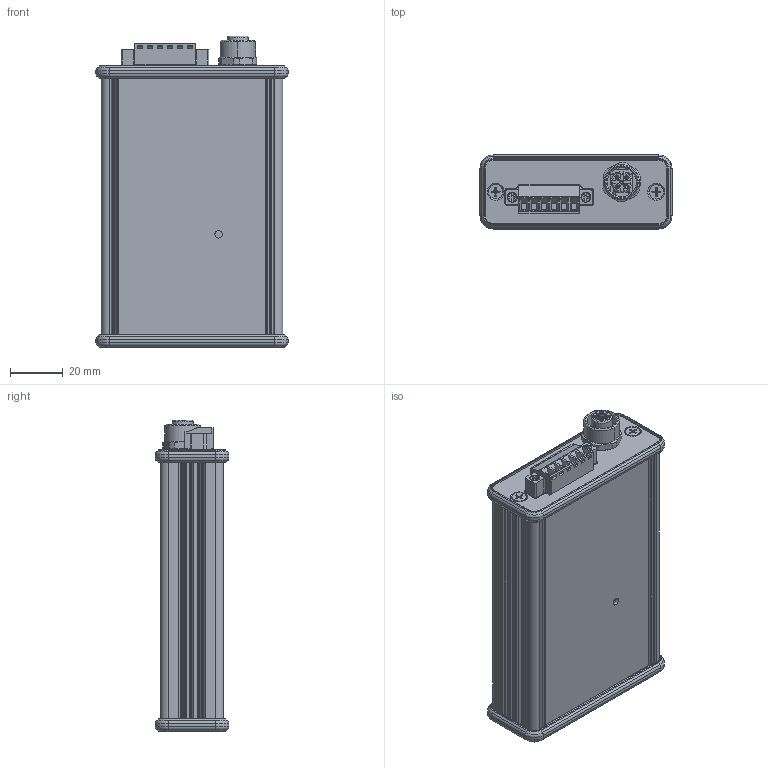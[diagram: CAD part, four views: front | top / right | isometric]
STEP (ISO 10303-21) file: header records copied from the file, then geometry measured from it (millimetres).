
FILE_DESCRIPTION (( 'STEP AP214' ), '1' );
FILE_NAME ('20260410_piCAN-Logger_91700004_Rev01_01.STEP', '2026-04-10T05:21:10', ( '' ), ( '' ), 'SwSTEP 2.0', 'SolidWorks 2026', '' );
FILE_SCHEMA (( 'AUTOMOTIVE_DESIGN' ));
Length unit declared in the file: millimetre
Products named in the file (10): 20260410_piCAN-Logger_91700004_Rev01_01; 001039003; 001032098_LED_Rev01_00; AKG D 69 24 100 Seitenteil USB_Rev00_02; 001032098; AKG D 69 24 100 Seitenteil CAN_Rev01_00; LL 30 PRL 032; WR-TBL-691364300006; DIN EN ISO 7046-1 H M3 x 10 - 4.8 - H; piCAN-Logger_Rev01_01_simpel
Assembly tree (13 placements, depth 2):
  20260410_piCAN-Logger_91700004_Rev01_01
    001039003  x2
    DIN EN ISO 7046-1 H M3 x 10 - 4.8 - H  x4
    AKG D 69 24 100 Seitenteil USB_Rev00_02
    001032098
    001032098_LED_Rev01_00
    WR-TBL-691364300006
    piCAN-Logger_Rev01_01_simpel
    AKG D 69 24 100 Seitenteil CAN_Rev01_00
    LL 30 PRL 032
Bounding box: 73 x 28 x 118.37 mm (x, y, z)
Volume: 43283 mm3; surface area: 85448.2 mm2
Topology: 33 solids, 72 shells, 3454 faces, 10536 edges, 7089 vertices
Faces by surface type: plane 1973, cylinder 1022, bspline 298, cone 155, torus 6
Entity records: 107680 total; most frequent: CARTESIAN_POINT 25612, DIRECTION 16554, ORIENTED_EDGE 16336, EDGE_CURVE 9233, VECTOR 6612, LINE 6612, VERTEX_POINT 6313, AXIS2_PLACEMENT_3D 4971
